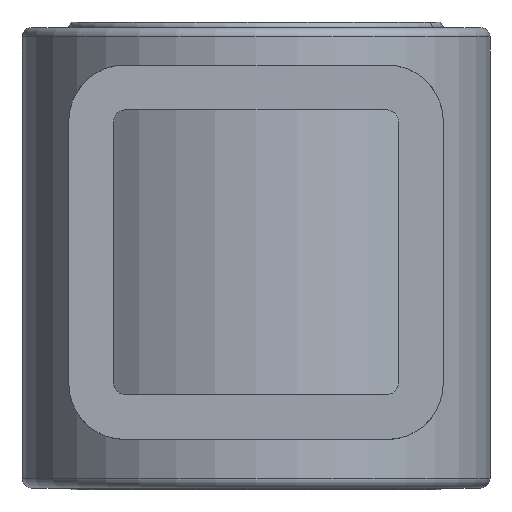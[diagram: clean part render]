
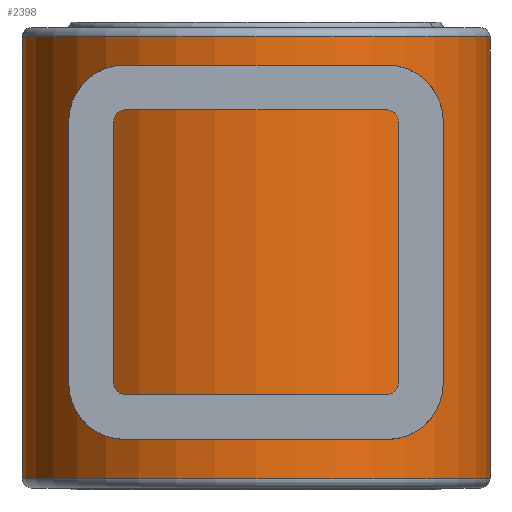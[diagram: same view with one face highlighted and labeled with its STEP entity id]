
A CAD part, front view. The second image highlights one B-rep face of the part: STEP entity #2398.
In plain terms, the highlighted cylindrical face has radius 15.875 mm (diameter 31.75 mm), a partial arc.
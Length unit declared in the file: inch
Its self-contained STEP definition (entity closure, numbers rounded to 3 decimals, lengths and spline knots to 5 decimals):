
#27 = AXIS2_PLACEMENT_3D ( 'NONE', #4518, #4496, #4507 ) ;
#69 = EDGE_CURVE ( 'NONE', #3539, #3526, #3688, .T. ) ;
#83 = EDGE_CURVE ( 'NONE', #3561, #3539, #3689, .T. ) ;
#91 = EDGE_CURVE ( 'NONE', #3561, #3560, #3679, .T. ) ;
#114 = EDGE_CURVE ( 'NONE', #3526, #3560, #2736, .T. ) ;
#312 = AXIS2_PLACEMENT_3D ( 'NONE', #1580, #1596, #1604 ) ;
#321 = AXIS2_PLACEMENT_3D ( 'NONE', #1463, #1461, #1465 ) ;
#835 = FACE_OUTER_BOUND ( 'NONE', #2935, .T. ) ;
#870 = CYLINDRICAL_SURFACE ( 'NONE', #27, 0.625 ) ;
#1288 = CARTESIAN_POINT ( 'NONE',  ( -0.625, 0., 1.205 ) ) ;
#1312 = CARTESIAN_POINT ( 'NONE',  ( 0.625, 0., 1.205 ) ) ;
#1326 = CARTESIAN_POINT ( 'NONE',  ( -0.625, 0., 0.025 ) ) ;
#1329 = CARTESIAN_POINT ( 'NONE',  ( 0.625, 0., 0.025 ) ) ;
#1443 = CARTESIAN_POINT ( 'NONE',  ( 0.625, 0., 1.23 ) ) ;
#1449 = DIRECTION ( 'NONE',  ( 0., 0., -1. ) ) ;
#1461 = DIRECTION ( 'NONE',  ( 0., 0., -1. ) ) ;
#1463 = CARTESIAN_POINT ( 'NONE',  ( 0., 0., 1.205 ) ) ;
#1465 = DIRECTION ( 'NONE',  ( 1., 0., 0. ) ) ;
#1580 = CARTESIAN_POINT ( 'NONE',  ( 0., 0., 0.025 ) ) ;
#1596 = DIRECTION ( 'NONE',  ( 0., 0., 1. ) ) ;
#1604 = DIRECTION ( 'NONE',  ( 1., 0., 0. ) ) ;
#2235 = CARTESIAN_POINT ( 'NONE',  ( -0.625, 0., 1.23 ) ) ;
#2238 = DIRECTION ( 'NONE',  ( 0., 0., -1. ) ) ;
#2398 = ADVANCED_FACE ( 'NONE', ( #835 ), #870, .T. ) ;
#2736 = CIRCLE ( 'NONE', #312, 0.625 ) ;
#2935 = EDGE_LOOP ( 'NONE', ( #3156, #3116, #3132, #3154 ) ) ;
#3116 = ORIENTED_EDGE ( 'NONE', *, *, #83, .T. ) ;
#3132 = ORIENTED_EDGE ( 'NONE', *, *, #69, .T. ) ;
#3154 = ORIENTED_EDGE ( 'NONE', *, *, #114, .T. ) ;
#3156 = ORIENTED_EDGE ( 'NONE', *, *, #91, .F. ) ;
#3526 = VERTEX_POINT ( 'NONE', #1326 ) ;
#3539 = VERTEX_POINT ( 'NONE', #1288 ) ;
#3560 = VERTEX_POINT ( 'NONE', #1329 ) ;
#3561 = VERTEX_POINT ( 'NONE', #1312 ) ;
#3643 = VECTOR ( 'NONE', #1449, 39.37008 ) ;
#3679 = LINE ( 'NONE', #1443, #3643 ) ;
#3688 = LINE ( 'NONE', #2235, #3705 ) ;
#3689 = CIRCLE ( 'NONE', #321, 0.625 ) ;
#3705 = VECTOR ( 'NONE', #2238, 39.37008 ) ;
#4496 = DIRECTION ( 'NONE',  ( 0., 0., -1. ) ) ;
#4507 = DIRECTION ( 'NONE',  ( -1., 0., 0. ) ) ;
#4518 = CARTESIAN_POINT ( 'NONE',  ( 0., 0., 1.23 ) ) ;
